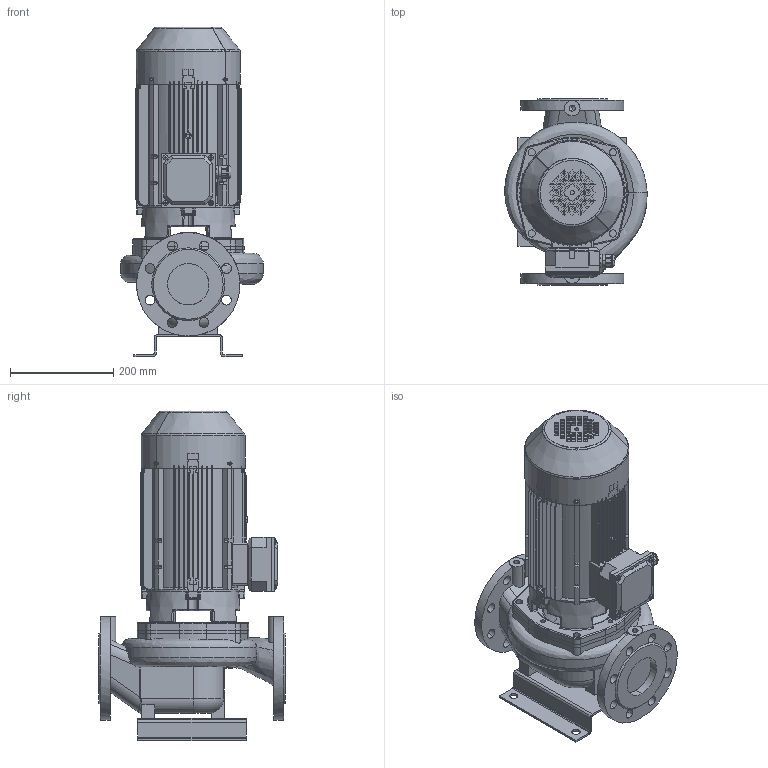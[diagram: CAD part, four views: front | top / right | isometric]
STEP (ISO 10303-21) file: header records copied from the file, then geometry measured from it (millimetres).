
FILE_DESCRIPTION(('STEP AP214'),'1');
FILE_NAME('export.stp','2018-05-29T07:06:38',(' '),(' '),'Spatial InterOp 3D',' ',' ');
FILE_SCHEMA(('AUTOMOTIVE_DESIGN { 1 0 10303 214 1 1 1 1 }'));
Length unit declared in the file: millimetre
Products named in the file (20): 160027; 160005; V_MKP100-1_F19; 160141; 160137; 160138; 160139; 160140; Koura_Ale_M5; Plug_Blind_M20; Sealing_Plug_M20; DIN_7985-M5X8; DIN_7985-M5X12; 160059___; 160060___; 160136; W_L80A2300KP100; V_TLL65AB80A1102; V_PPL80A; V_JALKA35973
Assembly tree (22 placements, depth 4):
  W_L80A2300KP100
    V_MKP100-1_F19
      160027
        160005
      160141
        160137
        160138
        160139
        160140
        Koura_Ale_M5
        Plug_Blind_M20
        Sealing_Plug_M20
        DIN_7985-M5X8
        DIN_7985-M5X12  x4
      160059___
      160060___
      160136
    V_TLL65AB80A1102
    V_PPL80A
    V_JALKA35973
Bounding box: 275.5 x 360 x 637 mm (x, y, z)
Volume: 8606953.7 mm3; surface area: 1734760.2 mm2
Topology: 20 solids, 20 shells, 2483 faces, 6687 edges, 4243 vertices
Faces by surface type: plane 1053, cylinder 778, bspline 250, torus 240, cone 147, sphere 15
Entity records: 98176 total; most frequent: CARTESIAN_POINT 34176, ORIENTED_EDGE 12994, DIRECTION 11904, EDGE_CURVE 6497, AXIS2_PLACEMENT_3D 4454, VERTEX_POINT 4147, LINE 2996, VECTOR 2996
